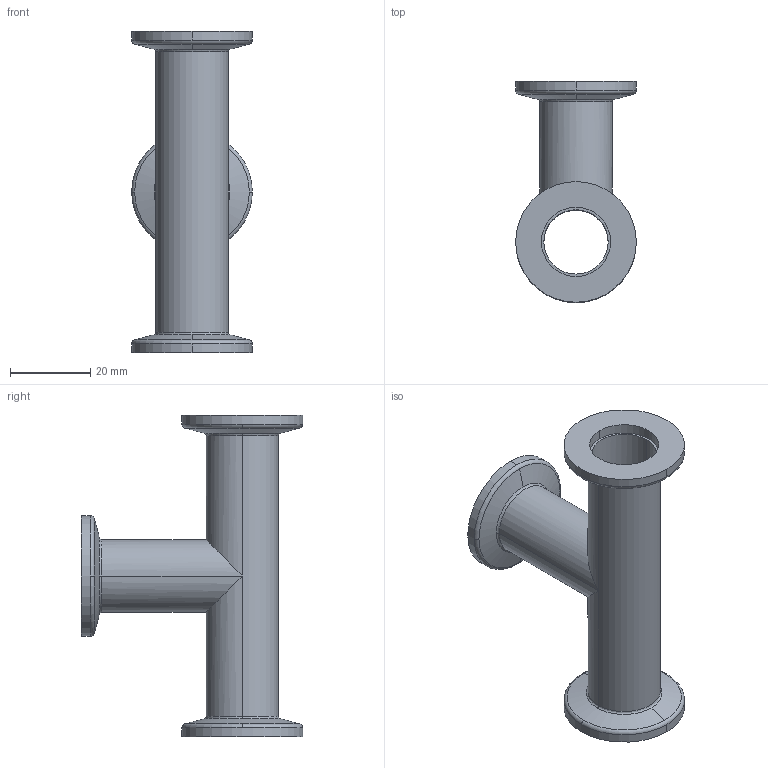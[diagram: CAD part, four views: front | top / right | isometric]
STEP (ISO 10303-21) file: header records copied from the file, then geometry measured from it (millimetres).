
FILE_DESCRIPTION((''),'2;1');
FILE_NAME('W:\211-292.stp','2003-10-10T11:15:27',('KAA'),(''),'Autodesk Inventor (R) 6.0','Autodesk Inventor (R) 6.0','');
FILE_SCHEMA(('CONFIG_CONTROL_DESIGN'));
Length unit declared in the file: millimetre
Products named in the file (1): 211-292
Bounding box: 30 x 55 x 80 mm (x, y, z)
Volume: 10642.5 mm3; surface area: 14587.5 mm2
Topology: 1 solids, 1 shells, 46 faces, 118 edges, 76 vertices
Faces by surface type: cylinder 22, torus 6, cone 6, bspline 6, plane 6
Entity records: 1789 total; most frequent: CARTESIAN_POINT 505, DIRECTION 288, ORIENTED_EDGE 236, AXIS2_PLACEMENT_3D 129, EDGE_CURVE 118, CIRCLE 84, VERTEX_POINT 76, EDGE_LOOP 52
